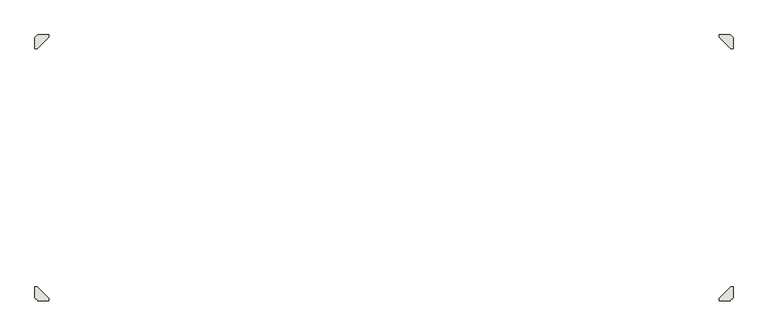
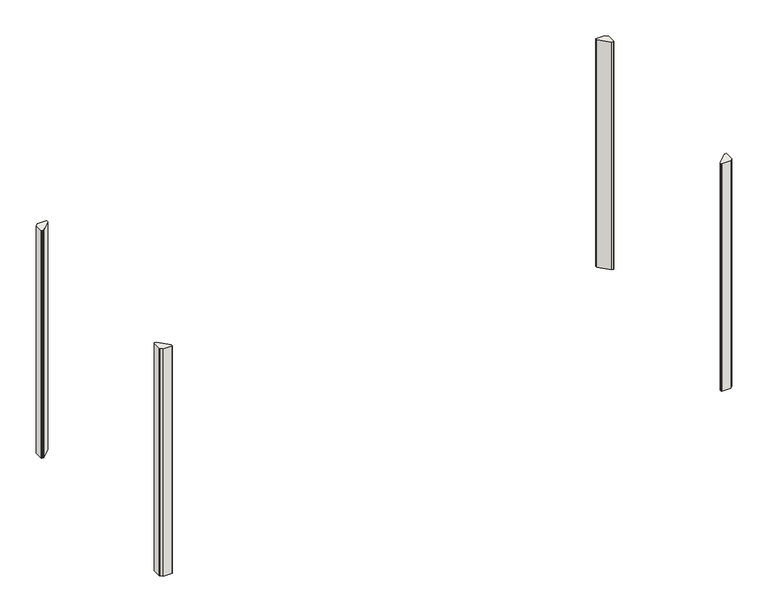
"""IFC4 building model written with IfcOpenShell, lengths in millimetres: wall geometry, Constuction_Wall_Zeppelin-Rental-GmbH_Corner2 : Constuction_Wall_Zeppelin-Rental-GmbH_Corner."""

import ifcopenshell
import ifcopenshell.guid

model = None  # the IFC model being written
_history = None  # IfcOwnerHistory: only IFC2X3 demands one
_inside = {}  # id of a spatial element -> (the spatial element, [elements in it])
_under = {}  # id of a project, library or spatial element -> (it, [spatial elements below it])
_declared = {}  # id of a project -> (the project, [libraries it declares])
_typed = {}  # id of a type object -> (the type object, [elements of that type])
_made_of = {}  # id of a material, layer set ... -> (it, [elements and type objects made of it])


def new_model(schema):
    """Start an empty IFC model of exactly this schema.

    Asked for "IFC4X3", IfcOpenShell would pick the latest addendum, in which some entities
    have other attributes; the version numbers below select the first issue.
    IFC2X3 requires an IfcOwnerHistory on every rooted entity: one is made here for all.
    """
    global model, _history
    if schema == "IFC4X3":
        model = ifcopenshell.file(schema_version=(4, 3, 0, 0))
    else:
        model = ifcopenshell.file(schema=schema)
    _inside.clear()
    _under.clear()
    _declared.clear()
    _typed.clear()
    _made_of.clear()
    _history = None
    if model.schema == "IFC2X3":
        org = make("IfcOrganization", Name="unknown")
        user = make(
            "IfcPersonAndOrganization",
            ThePerson=make("IfcPerson", FamilyName="unknown"),
            TheOrganization=org,
        )
        app = make(
            "IfcApplication",
            ApplicationDeveloper=org,
            Version="unknown",
            ApplicationFullName="unknown",
            ApplicationIdentifier="unknown",
        )
        _history = make(
            "IfcOwnerHistory",
            OwningUser=user,
            OwningApplication=app,
            ChangeAction="ADDED",
            CreationDate=0,
        )
    return model


def make(cls, **values):
    """One entity of the class cls with the attributes given. An attribute that is None is left unset."""
    return model.create_entity(
        cls, **{name: value for name, value in values.items() if value is not None}
    )


def rooted(cls, **values):
    """An entity with a GlobalId (a new one), such as an element, a storey or a relation."""
    return make(cls, GlobalId=ifcopenshell.guid.new(), OwnerHistory=_history, **values)


def si_unit(unit_type, name, prefix=None):
    """IfcSIUnit, for example si_unit("LENGTHUNIT", "METRE", prefix="MILLI")."""
    return make("IfcSIUnit", UnitType=unit_type, Prefix=prefix, Name=name)


def assignment(units):
    """IfcUnitAssignment: the units of a project."""
    return None if units is None else make("IfcUnitAssignment", Units=units)


def point(xyz):
    """IfcCartesianPoint."""
    return None if xyz is None else make("IfcCartesianPoint", Coordinates=xyz)


def direction(xyz):
    """IfcDirection."""
    return None if xyz is None else make("IfcDirection", DirectionRatios=xyz)


def frame(location, z_axis=None, x_axis=None):
    """IfcAxis2Placement3D, a coordinate frame: its origin and axes. An axis left out is left unset."""
    return make(
        "IfcAxis2Placement3D",
        Location=point(location),
        Axis=direction(z_axis),
        RefDirection=direction(x_axis),
    )


def frame_2d(location, x_axis=None):
    """IfcAxis2Placement2D, a coordinate frame in the plane: its origin and x axis."""
    return make(
        "IfcAxis2Placement2D", Location=point(location), RefDirection=direction(x_axis)
    )


def origin():
    """The frame at (0, 0, 0) with its axes left unset."""
    return frame((0.0, 0.0, 0.0))


def origin_with_axes():
    """The frame at (0, 0, 0) with the z axis (0, 0, 1) and the x axis (1, 0, 0) written out."""
    return frame((0.0, 0.0, 0.0), z_axis=(0.0, 0.0, 1.0), x_axis=(1.0, 0.0, 0.0))


def place(relative_to, where):
    """IfcLocalPlacement: puts the frame where relative to a parent placement (None: the world)."""
    return make(
        "IfcLocalPlacement", PlacementRelTo=relative_to, RelativePlacement=where
    )


def context(
    kind, dimensions, precision=None, world=None, true_north=None, identifier=None
):
    """IfcGeometricRepresentationContext, for example the 3D "Model" context."""
    return make(
        "IfcGeometricRepresentationContext",
        ContextIdentifier=identifier,
        ContextType=kind,
        CoordinateSpaceDimension=dimensions,
        Precision=precision,
        WorldCoordinateSystem=world,
        TrueNorth=true_north,
    )


def project(units=None, contexts=None):
    """IfcProject with its units and contexts."""
    return rooted(
        "IfcProject",
        Name="project",
        RepresentationContexts=contexts,
        UnitsInContext=assignment(units),
    )


def spatial(cls, under=None, at=None, **own):
    """A site, building, storey or space (cls), placed at a placement, below another one or the project."""
    s = rooted(cls, ObjectPlacement=at, **own)
    if under is not None:
        _under.setdefault(under.id(), (under, []))[1].append(s)
    return s


def polyline(points):
    """IfcPolyline through the points."""
    return make("IfcPolyline", Points=[point(p) for p in points])


def circle_curve(where, radius):
    """IfcCircle in the frame where."""
    return make("IfcCircle", Position=where, Radius=radius)


def trimmed(basis, trim1, trim2, sense, master):
    """IfcTrimmedCurve: the piece of a basis curve between two trims."""
    return make(
        "IfcTrimmedCurve",
        BasisCurve=basis,
        Trim1=trim1,
        Trim2=trim2,
        SenseAgreement=sense,
        MasterRepresentation=master,
    )


def segment(curve, same_sense, transition):
    """IfcCompositeCurveSegment."""
    return make(
        "IfcCompositeCurveSegment",
        Transition=transition,
        SameSense=same_sense,
        ParentCurve=curve,
    )


def composite_curve(segments, self_intersect=None):
    """IfcCompositeCurve: segments joined end to end."""
    return make("IfcCompositeCurve", Segments=segments, SelfIntersect=self_intersect)


def outline(outer, holes=None, kind="AREA"):
    """IfcArbitraryClosedProfileDef: a profile drawn as a closed curve; with holes, ...WithVoids."""
    if holes is None:
        return make("IfcArbitraryClosedProfileDef", ProfileType=kind, OuterCurve=outer)
    return make(
        "IfcArbitraryProfileDefWithVoids",
        ProfileType=kind,
        OuterCurve=outer,
        InnerCurves=holes,
    )


def extrude(swept, where, along, depth):
    """IfcExtrudedAreaSolid: the profile swept, set in the frame where, extruded along a direction by depth."""
    return make(
        "IfcExtrudedAreaSolid",
        SweptArea=swept,
        Position=where,
        ExtrudedDirection=direction(along),
        Depth=depth,
    )


def shape(context_of_items, identifier, shape_type, items):
    """IfcShapeRepresentation: the items that make up one representation, for example the "Body"."""
    return make(
        "IfcShapeRepresentation",
        ContextOfItems=context_of_items,
        RepresentationIdentifier=identifier,
        RepresentationType=shape_type,
        Items=items,
    )


def source(mapping_origin, context_of_items, identifier, shape_type, items):
    """IfcRepresentationMap: a shape defined once, which mapped items show again and again."""
    return make(
        "IfcRepresentationMap",
        MappingOrigin=mapping_origin,
        MappedRepresentation=shape(context_of_items, identifier, shape_type, items),
    )


def transform(
    local_origin,
    x_axis=None,
    y_axis=None,
    z_axis=None,
    scale=None,
    scale2=None,
    scale3=None,
    uniform=True,
):
    """IfcCartesianTransformationOperator3D, or its non-uniform kind. x_axis, y_axis, z_axis: its Axis1, 2, 3."""
    if uniform:
        return make(
            "IfcCartesianTransformationOperator3D",
            Axis1=direction(x_axis),
            Axis2=direction(y_axis),
            LocalOrigin=point(local_origin),
            Scale=scale,
            Axis3=direction(z_axis),
        )
    return make(
        "IfcCartesianTransformationOperator3DnonUniform",
        Axis1=direction(x_axis),
        Axis2=direction(y_axis),
        LocalOrigin=point(local_origin),
        Scale=scale,
        Axis3=direction(z_axis),
        Scale2=scale2,
        Scale3=scale3,
    )


def mapped(mapping_source, mapping_target):
    """IfcMappedItem: shows the shape of a source again, moved by a transform."""
    return make(
        "IfcMappedItem", MappingSource=mapping_source, MappingTarget=mapping_target
    )


def made_of(thing, what):
    """Note that an element or type object is made of a material, layer set ...; save() writes the relation."""
    if what is not None:
        _made_of.setdefault(what.id(), (what, []))[1].append(thing)
    return thing


def element(
    cls,
    number,
    at=None,
    inside=None,
    cuts=None,
    type_object=None,
    material=None,
    context=None,
    identifier="Body",
    shape_type=None,
    held_by="IfcProductDefinitionShape",
    body=None,
    shapes=None,
    **own,
):
    """One element of the class cls, such as IfcWall. Its Tag is "e" and its number.

    at: its placement. inside: the storey or other place that contains it. cuts: it is an
    opening in that element (IfcRelVoidsElement). A single representation is given by context,
    identifier, shape_type and body (its items); several are given by shapes. held_by: the class
    of the entity that holds the representations. save() writes the other relations.
    """
    e = rooted(cls, Tag="e%d" % number, ObjectPlacement=at, **own)
    if body is not None:
        shapes = [shape(context, identifier, shape_type, body)]
    if shapes is not None:
        e.Representation = make(held_by, Representations=shapes)
    if inside is not None:
        _inside.setdefault(inside.id(), (inside, []))[1].append(e)
    if cuts is not None:
        rooted(
            "IfcRelVoidsElement", RelatingBuildingElement=cuts, RelatedOpeningElement=e
        )
    if type_object is not None:
        _typed.setdefault(type_object.id(), (type_object, []))[1].append(e)
    return made_of(e, material)


def aggregate(whole, parts):
    """IfcRelAggregates: a whole, such as a stair, and the parts it consists of."""
    return rooted("IfcRelAggregates", RelatingObject=whole, RelatedObjects=parts)


def save(model, path):
    """Write the relations noted so far, then the file.

    IfcRelAggregates (storeys below a building ...), IfcRelContainedInSpatialStructure (elements
    in a storey), IfcRelDefinesByType, IfcRelAssociatesMaterial and IfcRelDeclares: one each for
    every whole, place, type object, material and project.
    """
    for whole, parts in _under.values():
        aggregate(whole, parts)
    for where, things in _inside.values():
        rooted(
            "IfcRelContainedInSpatialStructure",
            RelatedElements=things,
            RelatingStructure=where,
        )
    for kind, things in _typed.values():
        rooted("IfcRelDefinesByType", RelatedObjects=things, RelatingType=kind)
    for what, things in _made_of.values():
        rooted("IfcRelAssociatesMaterial", RelatedObjects=things, RelatingMaterial=what)
    for by, libraries in _declared.values():
        rooted("IfcRelDeclares", RelatingContext=by, RelatedDefinitions=libraries)
    model.write(path)


def wall_046b6ac7(model_context):
    return source(origin(), model_context, "Body", "SweptSolid", [
        extrude(outline(composite_curve([segment(trimmed(circle_curve(frame_2d((-49104.3096117, 53789.4666256)), 2.0), [point((-49105.7238253, 53790.8808392))], [point((-49104.3096117, 53791.4666256))], False, "CARTESIAN"), True, "CONTINUOUS"), segment(polyline([(-49104.3096117, 53791.4666256), (-49087.1810521, 53791.4666256)]), True, "CONTINUOUS"), segment(trimmed(circle_curve(frame_2d((-49087.1810521, 53789.4236124)), 2.0430133), [point((-49087.1810521, 53791.4666256))], [point((-49085.1380388, 53789.4236124))], False, "CARTESIAN"), True, "CONTINUOUS"), segment(polyline([(-49085.1380388, 53789.4236124), (-49085.1380388, 53699.2950527)]), True, "CONTINUOUS"), segment(trimmed(circle_curve(frame_2d((-49087.1380388, 53699.2950527)), 2.0), [point((-49085.1380388, 53699.2950527))], [point((-49085.7238253, 53697.8808392))], False, "CARTESIAN"), True, "CONTINUOUS"), segment(polyline([(-49085.7238253, 53697.8808392), (-49109.2964398, 53674.3082246)]), True, "CONTINUOUS"), segment(trimmed(circle_curve(frame_2d((-49110.7216378, 53675.7334226)), 2.0155343), [point((-49109.2964398, 53674.3082246))], [point((-49110.7216378, 53673.7178883))], False, "CARTESIAN"), True, "CONTINUOUS"), segment(polyline([(-49110.7216378, 53673.7178883), (-49200.8299991, 53673.7178883)]), True, "CONTINUOUS"), segment(trimmed(circle_curve(frame_2d((-49200.8299991, 53675.7746653)), 2.0567771), [point((-49200.8299991, 53673.7178883))], [point((-49202.8867762, 53675.7746653))], False, "CARTESIAN"), True, "CONTINUOUS"), segment(polyline([(-49202.8867762, 53675.7746653), (-49202.8867762, 53692.8926341)]), True, "CONTINUOUS"), segment(trimmed(circle_curve(frame_2d((-49200.8944364, 53692.8926341)), 1.9923398), [point((-49202.8867762, 53692.8926341))], [point((-49202.3032333, 53694.3014311))], False, "CARTESIAN"), True, "CONTINUOUS"), segment(polyline([(-49202.3032333, 53694.3014311), (-49105.7238253, 53790.8808392)]), True, "CONTINUOUS")], self_intersect=False)), origin_with_axes(), (0.0, 0.0, 1.0), 2459.0),
        extrude(outline(composite_curve([segment(polyline([(-54914.5522524, 53790.8808392), (-54817.9728443, 53694.3014311)]), True, "CONTINUOUS"), segment(trimmed(circle_curve(frame_2d((-54819.3816413, 53692.8926341)), 1.9923398), [point((-54817.9728443, 53694.3014311))], [point((-54817.3893015, 53692.8926341))], False, "CARTESIAN"), True, "CONTINUOUS"), segment(polyline([(-54817.3893015, 53692.8926341), (-54817.3893015, 53675.7746653)]), True, "CONTINUOUS"), segment(trimmed(circle_curve(frame_2d((-54819.4460785, 53675.7746653)), 2.0567771), [point((-54817.3893015, 53675.7746653))], [point((-54819.4460785, 53673.7178883))], False, "CARTESIAN"), True, "CONTINUOUS"), segment(polyline([(-54819.4460785, 53673.7178883), (-54909.5544398, 53673.7178883)]), True, "CONTINUOUS"), segment(trimmed(circle_curve(frame_2d((-54909.5544398, 53675.7334226)), 2.0155343), [point((-54909.5544398, 53673.7178883))], [point((-54910.9796378, 53674.3082246))], False, "CARTESIAN"), True, "CONTINUOUS"), segment(polyline([(-54910.9796378, 53674.3082246), (-54934.5522524, 53697.8808392)]), True, "CONTINUOUS"), segment(trimmed(circle_curve(frame_2d((-54933.1380388, 53699.2950527)), 2.0), [point((-54934.5522524, 53697.8808392))], [point((-54935.1380388, 53699.2950527))], False, "CARTESIAN"), True, "CONTINUOUS"), segment(polyline([(-54935.1380388, 53699.2950527), (-54935.1380388, 53789.4236124)]), True, "CONTINUOUS"), segment(trimmed(circle_curve(frame_2d((-54933.0950256, 53789.4236124)), 2.0430133), [point((-54935.1380388, 53789.4236124))], [point((-54933.0950256, 53791.4666256))], False, "CARTESIAN"), True, "CONTINUOUS"), segment(polyline([(-54933.0950256, 53791.4666256), (-54915.9664659, 53791.4666256)]), True, "CONTINUOUS"), segment(trimmed(circle_curve(frame_2d((-54915.9664659, 53789.4666256)), 2.0), [point((-54915.9664659, 53791.4666256))], [point((-54914.5522524, 53790.8808392))], False, "CARTESIAN"), True, "CONTINUOUS")], self_intersect=False)), origin_with_axes(), (0.0, 0.0, 1.0), 2459.0),
        extrude(outline(composite_curve([segment(polyline([(-49105.7238253, 55786.5550619), (-49202.3032333, 55883.13447)]), True, "CONTINUOUS"), segment(trimmed(circle_curve(frame_2d((-49200.8944364, 55884.543267)), 1.9923398), [point((-49202.3032333, 55883.13447))], [point((-49202.8867762, 55884.543267))], False, "CARTESIAN"), True, "CONTINUOUS"), segment(polyline([(-49202.8867762, 55884.543267), (-49202.8867762, 55901.6612358)]), True, "CONTINUOUS"), segment(trimmed(circle_curve(frame_2d((-49200.8299991, 55901.6612358)), 2.0567771), [point((-49202.8867762, 55901.6612358))], [point((-49200.8299991, 55903.7180128))], False, "CARTESIAN"), True, "CONTINUOUS"), segment(polyline([(-49200.8299991, 55903.7180128), (-49110.7216378, 55903.7180128)]), True, "CONTINUOUS"), segment(trimmed(circle_curve(frame_2d((-49110.7216378, 55901.7024785)), 2.0155343), [point((-49110.7216378, 55903.7180128))], [point((-49109.2964398, 55903.1276765))], False, "CARTESIAN"), True, "CONTINUOUS"), segment(polyline([(-49109.2964398, 55903.1276765), (-49085.7238253, 55879.5550619)]), True, "CONTINUOUS"), segment(trimmed(circle_curve(frame_2d((-49087.1380388, 55878.1408484)), 2.0), [point((-49085.7238253, 55879.5550619))], [point((-49085.1380388, 55878.1408484))], False, "CARTESIAN"), True, "CONTINUOUS"), segment(polyline([(-49085.1380388, 55878.1408484), (-49085.1380388, 55788.0122888)]), True, "CONTINUOUS"), segment(trimmed(circle_curve(frame_2d((-49087.1810521, 55788.0122888)), 2.0430133), [point((-49085.1380388, 55788.0122888))], [point((-49087.1810521, 55785.9692755))], False, "CARTESIAN"), True, "CONTINUOUS"), segment(polyline([(-49087.1810521, 55785.9692755), (-49104.3096117, 55785.9692755)]), True, "CONTINUOUS"), segment(trimmed(circle_curve(frame_2d((-49104.3096117, 55787.9692755)), 2.0), [point((-49104.3096117, 55785.9692755))], [point((-49105.7238253, 55786.5550619))], False, "CARTESIAN"), True, "CONTINUOUS")], self_intersect=False)), origin_with_axes(), (0.0, 0.0, 1.0), 2459.0),
        extrude(outline(composite_curve([segment(trimmed(circle_curve(frame_2d((-54915.9664659, 55787.9692755)), 2.0), [point((-54914.5522524, 55786.5550619))], [point((-54915.9664659, 55785.9692755))], False, "CARTESIAN"), True, "CONTINUOUS"), segment(polyline([(-54915.9664659, 55785.9692755), (-54933.0950256, 55785.9692755)]), True, "CONTINUOUS"), segment(trimmed(circle_curve(frame_2d((-54933.0950256, 55788.0122888)), 2.0430133), [point((-54933.0950256, 55785.9692755))], [point((-54935.1380388, 55788.0122888))], False, "CARTESIAN"), True, "CONTINUOUS"), segment(polyline([(-54935.1380388, 55788.0122888), (-54935.1380388, 55878.1408484)]), True, "CONTINUOUS"), segment(trimmed(circle_curve(frame_2d((-54933.1380388, 55878.1408484)), 2.0), [point((-54935.1380388, 55878.1408484))], [point((-54934.5522524, 55879.5550619))], False, "CARTESIAN"), True, "CONTINUOUS"), segment(polyline([(-54934.5522524, 55879.5550619), (-54910.9796378, 55903.1276765)]), True, "CONTINUOUS"), segment(trimmed(circle_curve(frame_2d((-54909.5544398, 55901.7024785)), 2.0155343), [point((-54910.9796378, 55903.1276765))], [point((-54909.5544398, 55903.7180128))], False, "CARTESIAN"), True, "CONTINUOUS"), segment(polyline([(-54909.5544398, 55903.7180128), (-54819.4460785, 55903.7180128)]), True, "CONTINUOUS"), segment(trimmed(circle_curve(frame_2d((-54819.4460785, 55901.6612358)), 2.0567771), [point((-54819.4460785, 55903.7180128))], [point((-54817.3893015, 55901.6612358))], False, "CARTESIAN"), True, "CONTINUOUS"), segment(polyline([(-54817.3893015, 55901.6612358), (-54817.3893015, 55884.543267)]), True, "CONTINUOUS"), segment(trimmed(circle_curve(frame_2d((-54819.3816413, 55884.543267)), 1.9923398), [point((-54817.3893015, 55884.543267))], [point((-54817.9728443, 55883.13447))], False, "CARTESIAN"), True, "CONTINUOUS"), segment(polyline([(-54817.9728443, 55883.13447), (-54914.5522524, 55786.5550619)]), True, "CONTINUOUS")], self_intersect=False)), origin_with_axes(), (0.0, 0.0, 1.0), 2459.0),
    ])


if __name__ == "__main__":
    model = new_model("IFC4")
    model_context = context("Model", 3, world=origin())
    ifc_project = project(units=[si_unit("LENGTHUNIT", "METRE", prefix="MILLI")], contexts=[model_context])
    site = spatial("IfcSite", under=ifc_project)
    building = spatial("IfcBuilding", under=site)
    placement = place(None, origin())
    wall_shape = wall_046b6ac7(model_context)
    element("IfcWall", 1, ObjectType="Constuction_Wall_Zeppelin-Rental-GmbH_Corner2 : Constuction_Wall_Zeppelin-Rental-GmbH_Corner", at=placement, inside=building, context=model_context, shape_type="MappedRepresentation", body=[
        mapped(wall_shape, transform((0.0, 0.0, 0.0), x_axis=(1.0, 0.0, 0.0), y_axis=(0.0, 1.0, 0.0), z_axis=(0.0, 0.0, 1.0))),
    ])
    save(model, "model.ifc")
